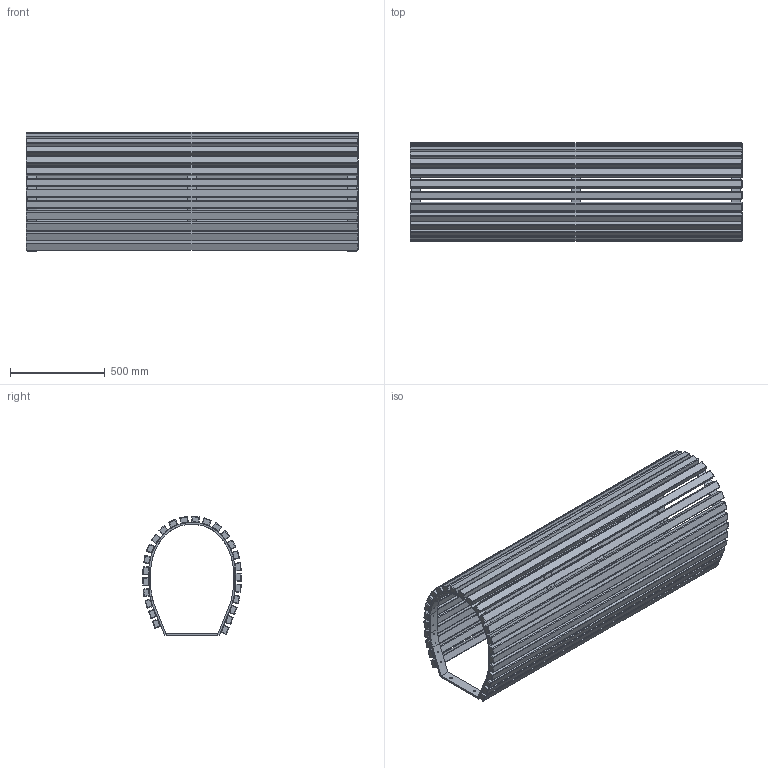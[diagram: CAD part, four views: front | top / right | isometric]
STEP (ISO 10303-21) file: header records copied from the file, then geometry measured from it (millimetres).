
FILE_DESCRIPTION(/* description */ (''),/* implementation_level */ '2;1');
FILE_NAME(/* name */ 'ENV02-C3_UAP_ENVIRON_Bench_3D',/* time_stamp */ '2018-01-23T21:01:24-05:00',/* author */ (''),/* organization */ (''),/* preprocessor_version */ 'ST-DEVELOPER v15',/* originating_system */ '',/* authorisation */ '');
FILE_SCHEMA (('AUTOMOTIVE_DESIGN'));
Length unit declared in the file: millimetre
Products named in the file (1): Document
Bounding box: 1750 x 520 x 629.99 mm (x, y, z)
Volume: 58128619.8 mm3; surface area: 6755783.1 mm2
Topology: 30 solids, 30 shells, 902 faces, 2132 edges, 1084 vertices
Faces by surface type: bspline 780, plane 122
Entity records: 33554 total; most frequent: CARTESIAN_POINT 22168, ORIENTED_EDGE 3864, EDGE_CURVE 1932, VERTEX_POINT 1084, EDGE_LOOP 1054, ADVANCED_FACE 902, FACE_OUTER_BOUND 902, B_SPLINE_CURVE_WITH_KNOTS 571
